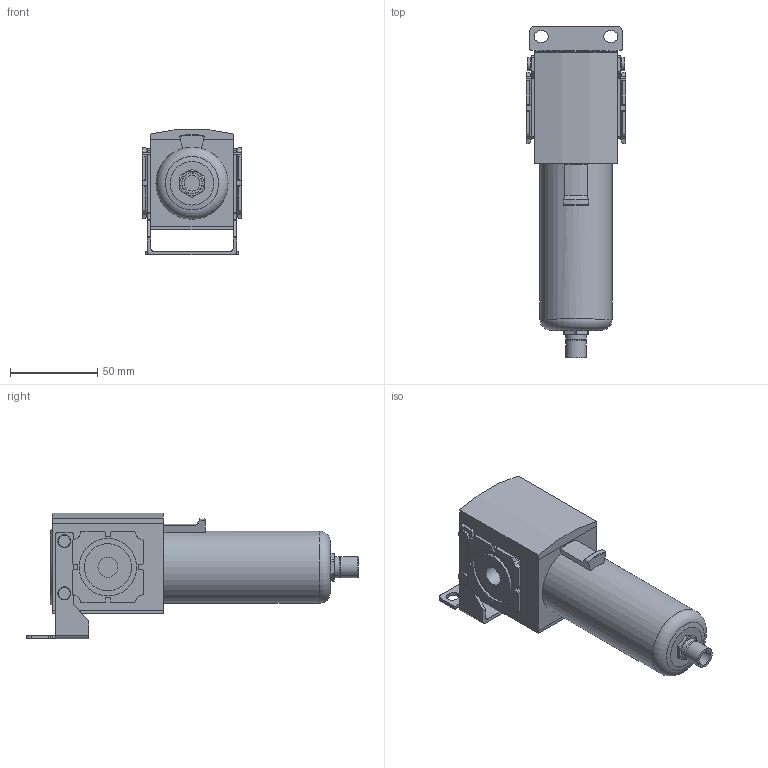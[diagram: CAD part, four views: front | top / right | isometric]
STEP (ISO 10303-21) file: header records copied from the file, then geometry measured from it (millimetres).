
FILE_DESCRIPTION( ( 'STEP AP214' ), '1' );
FILE_NAME( 'C:/Users/emc03072/Desktop/EAF/EAF3000-025M.stp', '2026-07-30T02:33:07', ( 'License CC BY-ND 4.0' ), ( 'CADENAS' ), ' ', 'PARTsolutions', ' ' );
FILE_SCHEMA( ( 'AUTOMOTIVE_DESIGN { 1 0 10303 214 1 1 1 1 }' ) );
Length unit declared in the file: millimetre
Products named in the file (2): EAF3000-025M; _EAF3000-025M-Body
Assembly tree (1 placements, depth 2):
  EAF3000-025M
    _EAF3000-025M-Body
Bounding box: 57 x 190.54 x 71.97 mm (x, y, z)
Volume: 321448.7 mm3; surface area: 42310.1 mm2
Topology: 1 solids, 1 shells, 256 faces, 664 edges, 437 vertices
Faces by surface type: plane 179, cylinder 57, torus 14, cone 6
Full cylindrical faces by diameter (mm): 3.46 x4, 3.462 x4, 7.5 x4, 9 x1, 11.445 x2, 12 x2, 27.06 x2, 32.94 x2, 41.322 x1
Entity records: 9694 total; most frequent: CARTESIAN_POINT 1366, DIRECTION 1272, ORIENTED_EDGE 1248, EDGE_CURVE 624, LINE 468, VECTOR 468, VERTEX_POINT 436, AXIS2_PLACEMENT_3D 402
